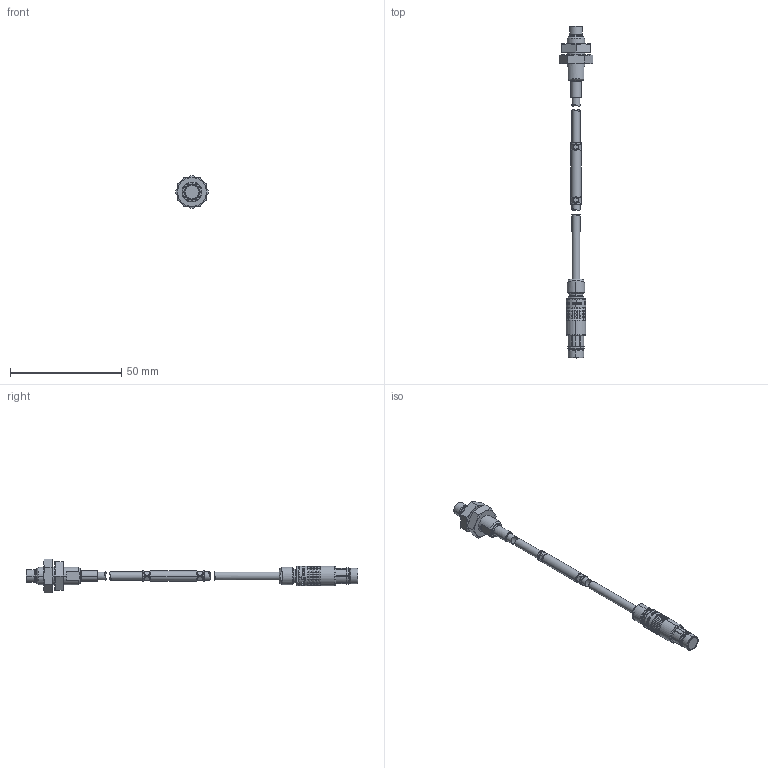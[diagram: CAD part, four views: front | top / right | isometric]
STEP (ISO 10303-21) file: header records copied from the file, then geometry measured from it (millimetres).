
FILE_DESCRIPTION((''),'2;1');
FILE_NAME('Z2609157_80-A','2023-04-20T10:52:10',('11000775'),(''),'CREO PARAMETRIC BY PTC INC, 2020184','CREO PARAMETRIC BY PTC INC, 2020184','');
FILE_SCHEMA(('AUTOMOTIVE_DESIGN { 1 0 10303 214 1 1 1 1 }'));
Products named in the file (1): Z2609157_80-A
Bounding box: 15.01 x 149.25 x 15.01 mm (x, y, z)
Volume: 4561.5 mm3; surface area: 5156 mm2
Topology: 4 solids, 4 shells, 958 faces, 2590 edges, 1693 vertices
Faces by surface type: bspline 338, plane 320, cylinder 171, cone 95, torus 34
Entity records: 53741 total; most frequent: CARTESIAN_POINT 15451, ORIENTED_EDGE 5180, DIRECTION 4655, PRESENTATION_STYLE_ASSIGNMENT 3552, STYLED_ITEM 2594, CURVE_STYLE 2590, EDGE_CURVE 2590, AXIS2_PLACEMENT_3D 1741
